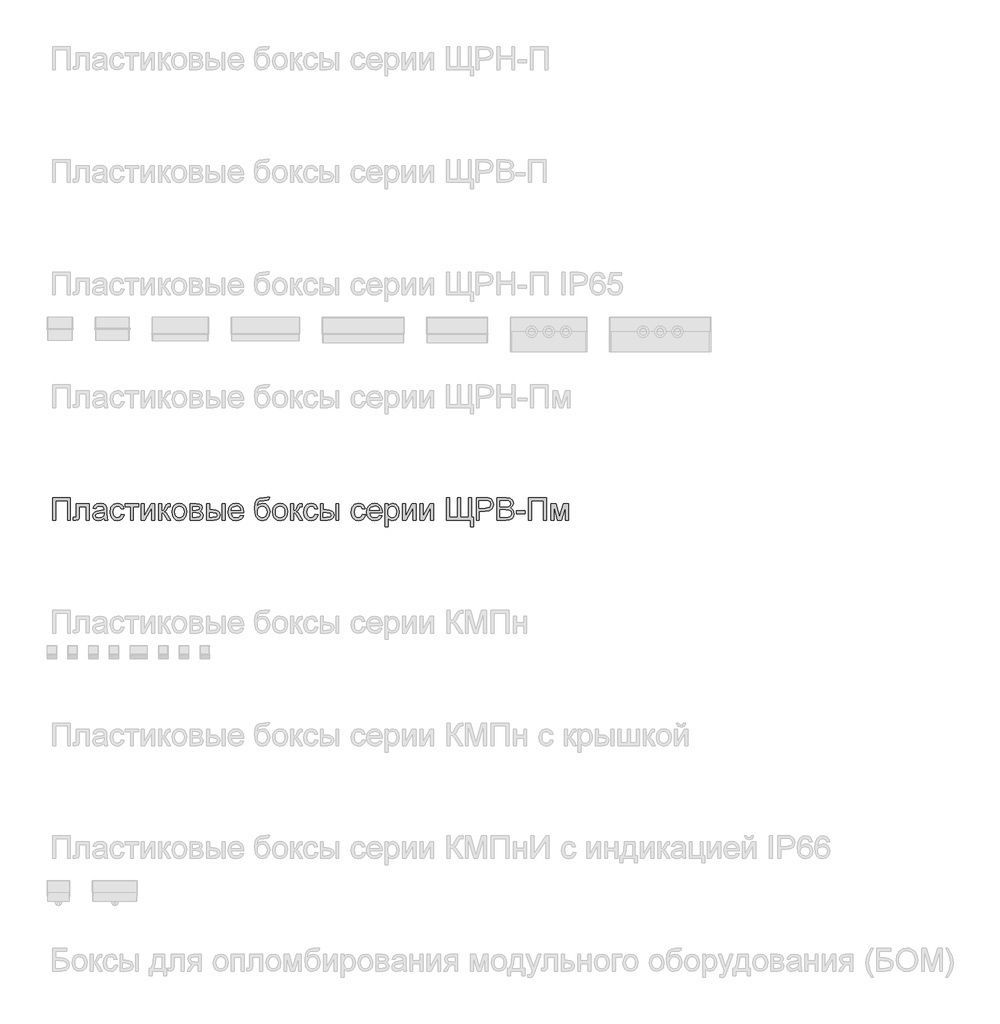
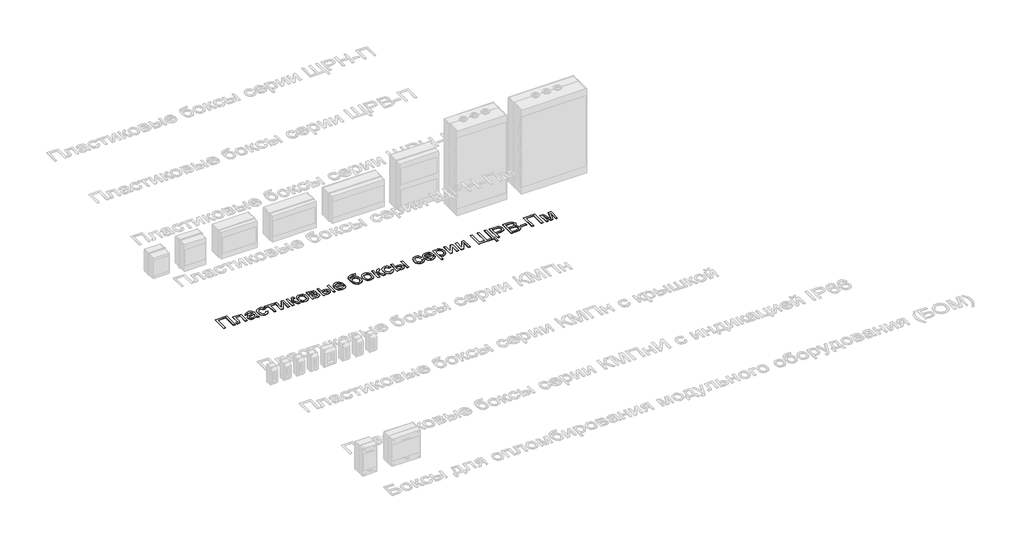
# One storey, part 22 of 25: 1 proxy.
"""IFC4 building model written with IfcOpenShell, lengths in millimetres."""

from ifc_helpers import new_model, si_unit, frame, origin, place, context, project, spatial, polyline, outline, extrude, element, save

model = new_model("IFC4")

# Units and contexts
model_context = context("Model", 3, world=origin())
ifc_project = project(units=[si_unit("LENGTHUNIT", "METRE", prefix="MILLI")], contexts=[model_context])

# Site, building, storey
site = spatial("IfcSite", under=ifc_project)
building = spatial("IfcBuilding", under=site)
storey = spatial("IfcBuildingStorey", under=building, Name="Этаж 01", Elevation=0.0)

# Proxy
placement = place(None, origin())
element("IfcBuildingElementProxy", 1, Name="Надпись на модели 1", ObjectType="Надпись на модели 1", at=placement, inside=storey, context=model_context, shape_type="SweptSolid", body=[
    extrude(outline(polyline([(-19038.1210387, 16636.6915941), (-18959.6395464, 16636.6915941), (-18959.6395464, 16536.235284), (-18972.1965852, 16536.235284), (-18972.1965852, 16624.1345554), (-19025.564, 16624.1345554), (-19025.564, 16536.235284), (-19038.1210387, 16536.235284), (-19038.1210387, 16636.6915941)])), frame((0.0, 0.0, 40.0), z_axis=(0.0, 0.0, 1.0), x_axis=(1.0, 0.0, 0.0)), (0.0, 0.0, 1.0), 2.0),
    extrude(outline(polyline([(-18932.955839, 16610.0078868), (-18876.4491646, 16610.0078868), (-18876.4491646, 16536.3088604), (-18889.0062033, 16536.3088604), (-18889.0062033, 16597.450848), (-18920.3988003, 16597.450848), (-18920.3988003, 16562.2568038), (-18921.2449289, 16546.0209451), (-18925.8925047, 16539.1660772), (-18936.8799137, 16536.235284), (-18947.0825077, 16536.8729461), (-18947.0825077, 16548.7923228), (-18941.4661759, 16548.7923228), (-18935.7885304, 16549.564875), (-18933.5199248, 16552.0174216), (-18932.955839, 16562.9680423), (-18932.955839, 16610.0078868)])), frame((0.0, 0.0, 40.0), z_axis=(0.0, 0.0, 1.0), x_axis=(1.0, 0.0, 0.0)), (0.0, 0.0, 1.0), 2.0),
    extrude(outline(polyline([(-18810.524711, 16545.6530631), (-18822.7016051, 16537.1427262), (-18836.1538234, 16534.6656541), (-18846.6476573, 16536.1555762), (-18854.3885076, 16540.6253425), (-18859.1617765, 16547.4127653), (-18860.7528661, 16555.8556571), (-18858.3493704, 16565.7884709), (-18852.0340628, 16572.998958), (-18843.2416831, 16577.1192364), (-18832.3769016, 16579.0076973), (-18810.5982874, 16583.3241794), (-18810.524711, 16586.1200825), (-18813.9828018, 16595.3907088), (-18827.8642158, 16599.0204778), (-18840.5684073, 16596.6047194), (-18846.6261975, 16588.0330689), (-18859.1832363, 16589.6026988), (-18853.7508455, 16601.8654319), (-18842.8124875, 16609.0513936), (-18826.245535, 16611.5775166), (-18811.0274831, 16609.3456992), (-18802.4313072, 16603.7416301), (-18798.5808089, 16595.2190306), (-18797.9676723, 16584.2316216), (-18797.9676723, 16568.6088996), (-18797.3300102, 16546.7934973), (-18794.8284126, 16536.235284), (-18807.3854514, 16536.235284), (-18810.524711, 16545.6530631)]), holes=[polyline([(-18810.524711, 16570.7671406), (-18830.7827462, 16566.9166424), (-18841.5862142, 16564.8810287), (-18846.4790447, 16561.5700907), (-18848.1958274, 16556.7385739), (-18844.4556937, 16549.9450197), (-18833.4805475, 16547.2226929), (-18820.776356, 16550.2270625), (-18812.5848502, 16557.4988633), (-18810.5982874, 16567.210948), (-18810.524711, 16570.7671406)])]), frame((0.0, 0.0, 40.0), z_axis=(0.0, 0.0, 1.0), x_axis=(1.0, 0.0, 0.0)), (0.0, 0.0, 1.0), 2.0),
    extrude(outline(polyline([(-18733.6128486, 16562.9189914), (-18721.0558098, 16561.3493615), (-18724.5568201, 16550.1810773), (-18731.1357765, 16541.7412512), (-18740.1734108, 16536.4345534), (-18751.0504552, 16534.6656541), (-18764.4076373, 16537.1335292), (-18774.8524202, 16544.5371544), (-18781.5938578, 16556.5515672), (-18783.8410037, 16572.8518052), (-18780.0027682, 16593.7107144), (-18768.3041207, 16607.1138817), (-18751.2221334, 16611.5775166), (-18740.6118035, 16610.044675), (-18732.1290579, 16605.44615), (-18726.0436765, 16598.0271964), (-18722.6254397, 16588.0330689), (-18735.1824784, 16586.4634391), (-18741.0072767, 16595.8689554), (-18751.1240316, 16599.0204778), (-18759.2388952, 16597.4692421), (-18765.6798958, 16592.8155349), (-18769.8829476, 16584.8079701), (-18771.2839649, 16573.1951618), (-18769.9136045, 16561.4260036), (-18765.8025232, 16553.3908477), (-18759.4780185, 16548.7647316), (-18751.4673881, 16547.2226929), (-18739.6338506, 16551.0731911), (-18733.6128486, 16562.9189914)])), frame((0.0, 0.0, 40.0), z_axis=(0.0, 0.0, 1.0), x_axis=(1.0, 0.0, 0.0)), (0.0, 0.0, 1.0), 2.0),
    extrude(outline(polyline([(-18716.3469203, 16610.0078868), (-18656.7009861, 16610.0078868), (-18656.7009861, 16597.450848), (-18680.2454338, 16597.450848), (-18680.2454338, 16536.235284), (-18692.8024726, 16536.235284), (-18692.8024726, 16597.450848), (-18716.3469203, 16597.450848), (-18716.3469203, 16610.0078868)])), frame((0.0, 0.0, 40.0), z_axis=(0.0, 0.0, 1.0), x_axis=(1.0, 0.0, 0.0)), (0.0, 0.0, 1.0), 2.0),
    extrude(outline(polyline([(-18645.7135772, 16610.0078868), (-18633.1565384, 16610.0078868), (-18633.1565384, 16553.746467), (-18602.3035018, 16610.0078868), (-18586.0676431, 16610.0078868), (-18586.0676431, 16536.235284), (-18598.6246818, 16536.235284), (-18598.6246818, 16592.1533473), (-18629.2815148, 16536.235284), (-18645.7135772, 16536.235284), (-18645.7135772, 16610.0078868)])), frame((0.0, 0.0, 40.0), z_axis=(0.0, 0.0, 1.0), x_axis=(1.0, 0.0, 0.0)), (0.0, 0.0, 1.0), 2.0),
    extrude(outline(polyline([(-18567.2320849, 16610.0078868), (-18554.6750461, 16610.0078868), (-18554.6750461, 16578.6152898), (-18546.2628112, 16580.8716327), (-18539.3711551, 16594.0172827), (-18533.6444587, 16605.3603109), (-18528.5922127, 16609.0513936), (-18519.4074255, 16610.0078868), (-18517.0039298, 16610.0078868), (-18517.0039298, 16597.3772716), (-18520.3884442, 16597.450848), (-18526.5198108, 16596.1264728), (-18530.8362928, 16587.8613906), (-18535.9008016, 16578.9218582), (-18543.0009242, 16574.5440624), (-18535.0791985, 16569.6573633), (-18527.3046257, 16559.3627988), (-18513.8646701, 16536.235284), (-18528.1384915, 16536.235284), (-18541.308667, 16558.8722894), (-18547.9305429, 16568.449484), (-18554.6750461, 16570.7671406), (-18554.6750461, 16536.235284), (-18567.2320849, 16536.235284), (-18567.2320849, 16610.0078868)])), frame((0.0, 0.0, 40.0), z_axis=(0.0, 0.0, 1.0), x_axis=(1.0, 0.0, 0.0)), (0.0, 0.0, 1.0), 2.0),
    extrude(outline(polyline([(-18509.1557806, 16573.1215854), (-18506.4395852, 16590.9086798), (-18498.290999, 16603.4105363), (-18488.2232951, 16609.5357715), (-18476.1690284, 16611.5775166), (-18462.9773932, 16609.0912475), (-18452.4406397, 16601.63244), (-18445.5336552, 16589.7897054), (-18443.2313271, 16574.151655), (-18447.3025545, 16551.8089551), (-18459.1606175, 16539.1660772), (-18476.1690284, 16534.6656541), (-18489.5200791, 16537.1427262), (-18500.0445698, 16544.5739426), (-18506.8779779, 16556.6649975), (-18509.1557806, 16573.1215854)]), holes=[polyline([(-18496.5987418, 16573.1461108), (-18495.1456079, 16561.7816229), (-18490.7862063, 16553.6851533), (-18484.2256441, 16548.838308), (-18476.1690284, 16547.2226929), (-18468.1492009, 16548.8475051), (-18461.6009014, 16553.7219415), (-18457.2414997, 16561.92571), (-18455.7883658, 16573.5385183), (-18457.2506968, 16584.5719125), (-18461.6376896, 16592.5580175), (-18468.1951861, 16597.4048627), (-18476.1690284, 16599.0204778), (-18484.2256441, 16597.4109941), (-18490.7862063, 16592.5825429), (-18495.1456079, 16584.5044674), (-18496.5987418, 16573.1461108)])]), frame((0.0, 0.0, 40.0), z_axis=(0.0, 0.0, 1.0), x_axis=(1.0, 0.0, 0.0)), (0.0, 0.0, 1.0), 2.0),
    extrude(outline(polyline([(-18429.1046584, 16610.0078868), (-18401.4399324, 16610.0078868), (-18386.2709315, 16608.3278923), (-18377.7360692, 16602.1720003), (-18374.1676138, 16591.4421087), (-18376.3258549, 16582.7233055), (-18382.8251035, 16576.5060997), (-18374.388343, 16569.7002828), (-18371.0283541, 16557.8667453), (-18373.1559383, 16548.2956821), (-18378.2143158, 16541.5573102), (-18386.2218805, 16537.5657905), (-18397.1970267, 16536.235284), (-18429.1046584, 16536.235284), (-18429.1046584, 16610.0078868)]), holes=[polyline([(-18416.5476197, 16548.7923228), (-18401.1456268, 16548.7923228), (-18387.4849421, 16551.0609284), (-18383.5853929, 16558.8968149), (-18385.7313712, 16564.9423424), (-18391.3231775, 16568.4617468), (-18402.3719001, 16569.1975108), (-18416.5476197, 16569.1975108), (-18416.5476197, 16548.7923228)]), polyline([(-18416.5476197, 16581.7545495), (-18404.1377337, 16581.7545495), (-18393.8983515, 16582.3922117), (-18388.9196818, 16584.9428602), (-18386.7246526, 16589.5536478), (-18390.5751508, 16595.7095399), (-18403.7453262, 16597.450848), (-18416.5476197, 16597.450848), (-18416.5476197, 16581.7545495)])]), frame((0.0, 0.0, 40.0), z_axis=(0.0, 0.0, 1.0), x_axis=(1.0, 0.0, 0.0)), (0.0, 0.0, 1.0), 2.0),
    extrude(outline(polyline([(-18286.2683425, 16610.0078868), (-18273.7113037, 16610.0078868), (-18273.7113037, 16536.235284), (-18286.2683425, 16536.235284), (-18286.2683425, 16610.0078868)])), frame((0.0, 0.0, 40.0), z_axis=(0.0, 0.0, 1.0), x_axis=(1.0, 0.0, 0.0)), (0.0, 0.0, 1.0), 2.0),
    extrude(outline(polyline([(-18355.3320557, 16610.0078868), (-18342.7750169, 16610.0078868), (-18342.7750169, 16583.3241794), (-18327.2503967, 16583.3241794), (-18313.8319009, 16581.7514838), (-18303.88989, 16577.0333973), (-18297.7370637, 16569.5500643), (-18295.6861215, 16559.6816298), (-18297.4059699, 16550.6961121), (-18302.5655148, 16543.1146773), (-18311.5019816, 16537.9551323), (-18324.5525954, 16536.235284), (-18355.3320557, 16536.235284), (-18355.3320557, 16610.0078868)]), holes=[polyline([(-18342.7750169, 16548.7923228), (-18329.8746216, 16548.7923228), (-18313.22183, 16551.4288104), (-18308.2431603, 16559.6571044), (-18311.934243, 16567.3826263), (-18328.2314154, 16570.7671406), (-18342.7750169, 16570.7671406), (-18342.7750169, 16548.7923228)])]), frame((0.0, 0.0, 40.0), z_axis=(0.0, 0.0, 1.0), x_axis=(1.0, 0.0, 0.0)), (0.0, 0.0, 1.0), 2.0),
    extrude(outline(polyline([(-18203.2251134, 16558.2101018), (-18190.9133293, 16556.640472), (-18195.349373, 16547.3637143), (-18202.4280358, 16540.4291387), (-18211.9899019, 16536.1065253), (-18223.8755561, 16534.6656541), (-18238.60923, 16537.1519233), (-18249.9461268, 16544.6107308), (-18257.175008, 16556.5576985), (-18259.5846351, 16572.5084487), (-18257.1504825, 16588.9956935), (-18249.8480249, 16601.3258717), (-18238.6644123, 16609.0146054), (-18224.5867946, 16611.5775166), (-18210.9475696, 16609.0207367), (-18200.0490655, 16601.3503971), (-18192.9029578, 16589.0447444), (-18190.5209218, 16572.5820251), (-18190.5944982, 16569.1975108), (-18247.0275963, 16569.1975108), (-18244.8540268, 16559.7981258), (-18239.8048465, 16552.8880756), (-18232.5177173, 16548.6390386), (-18223.6303014, 16547.2226929), (-18211.3185173, 16549.8469178), (-18203.2251134, 16558.2101018)]), holes=[polyline([(-18247.0275963, 16581.7545495), (-18203.0779606, 16581.7545495), (-18208.1056812, 16593.1343659), (-18215.4265329, 16597.5489499), (-18224.6358455, 16599.0204778), (-18240.0991521, 16594.323851), (-18244.9643914, 16588.8332123), (-18247.0275963, 16581.7545495)])]), frame((0.0, 0.0, 40.0), z_axis=(0.0, 0.0, 1.0), x_axis=(1.0, 0.0, 0.0)), (0.0, 0.0, 1.0), 2.0),
    extrude(outline(polyline([(-18086.925352, 16638.261224), (-18075.9379431, 16638.261224), (-18079.1753046, 16628.4633002), (-18085.5764513, 16624.9193703), (-18100.9539187, 16624.1345554), (-18121.6656751, 16621.2405503), (-18129.6119262, 16611.9699241), (-18132.2974647, 16595.5623871), (-18121.4204204, 16607.5798656), (-18107.4041164, 16611.5775166), (-18094.3381742, 16609.0360652), (-18083.7370414, 16601.4117108), (-18076.7104953, 16589.4524803), (-18074.3683132, 16573.9064003), (-18079.0158891, 16552.2994644), (-18090.0400862, 16539.2641791), (-18107.4041164, 16534.6656541), (-18118.7379475, 16536.1463792), (-18127.2329559, 16540.5885543), (-18138.0854748, 16555.7452925), (-18141.8623966, 16587.9104416), (-18139.4803607, 16612.0036466), (-18132.3342529, 16626.6974666), (-18120.2462637, 16634.1930623), (-18103.0385834, 16636.6915941), (-18089.0590676, 16636.973637), (-18086.925352, 16638.261224)]), holes=[polyline([(-18086.925352, 16574.2988078), (-18088.2865154, 16584.179505), (-18092.3700055, 16592.0920336), (-18098.9305678, 16597.2883668), (-18107.7229475, 16599.0204778), (-18116.8893405, 16597.1902649), (-18123.689026, 16591.6996261), (-18127.9012749, 16583.1494354), (-18129.3053578, 16572.1405667), (-18127.7541221, 16561.4689232), (-18123.1004149, 16553.6361024), (-18116.1719706, 16548.8260453), (-18107.7965239, 16547.2226929), (-18099.3781575, 16549.0774313), (-18092.7133621, 16554.6416465), (-18088.3723545, 16563.2654136), (-18086.925352, 16574.2988078)])]), frame((0.0, 0.0, 40.0), z_axis=(0.0, 0.0, 1.0), x_axis=(1.0, 0.0, 0.0)), (0.0, 0.0, 1.0), 2.0),
    extrude(outline(polyline([(-18061.8112745, 16573.1215854), (-18059.0950791, 16590.9086798), (-18050.9464929, 16603.4105363), (-18040.8787889, 16609.5357715), (-18028.8245222, 16611.5775166), (-18015.632887, 16609.0912475), (-18005.0961335, 16601.63244), (-17998.1891491, 16589.7897054), (-17995.8868209, 16574.151655), (-17999.9580483, 16551.8089551), (-18011.8161113, 16539.1660772), (-18028.8245222, 16534.6656541), (-18042.175573, 16537.1427262), (-18052.7000637, 16544.5739426), (-18059.5334718, 16556.6649975), (-18061.8112745, 16573.1215854)]), holes=[polyline([(-18049.2542357, 16573.1461108), (-18047.8011018, 16561.7816229), (-18043.4417002, 16553.6851533), (-18036.8811379, 16548.838308), (-18028.8245222, 16547.2226929), (-18020.8046947, 16548.8475051), (-18014.2563952, 16553.7219415), (-18009.8969936, 16561.92571), (-18008.4438597, 16573.5385183), (-18009.9061906, 16584.5719125), (-18014.2931834, 16592.5580175), (-18020.85068, 16597.4048627), (-18028.8245222, 16599.0204778), (-18036.8811379, 16597.4109941), (-18043.4417002, 16592.5825429), (-18047.8011018, 16584.5044674), (-18049.2542357, 16573.1461108)])]), frame((0.0, 0.0, 40.0), z_axis=(0.0, 0.0, 1.0), x_axis=(1.0, 0.0, 0.0)), (0.0, 0.0, 1.0), 2.0),
    extrude(outline(polyline([(-17981.7601523, 16610.0078868), (-17969.2031135, 16610.0078868), (-17969.2031135, 16578.6152898), (-17960.7908786, 16580.8716327), (-17953.8992225, 16594.0172827), (-17948.1725262, 16605.3603109), (-17943.1202801, 16609.0513936), (-17933.9354929, 16610.0078868), (-17931.5319972, 16610.0078868), (-17931.5319972, 16597.3772716), (-17934.9165116, 16597.450848), (-17941.0478782, 16596.1264728), (-17945.3643603, 16587.8613906), (-17950.4288691, 16578.9218582), (-17957.5289916, 16574.5440624), (-17949.6072659, 16569.6573633), (-17941.8326931, 16559.3627988), (-17928.3927375, 16536.235284), (-17942.666559, 16536.235284), (-17955.8367344, 16558.8722894), (-17962.4586103, 16568.449484), (-17969.2031135, 16570.7671406), (-17969.2031135, 16536.235284), (-17981.7601523, 16536.235284), (-17981.7601523, 16610.0078868)])), frame((0.0, 0.0, 40.0), z_axis=(0.0, 0.0, 1.0), x_axis=(1.0, 0.0, 0.0)), (0.0, 0.0, 1.0), 2.0),
    extrude(outline(polyline([(-17873.4556929, 16562.9189914), (-17860.8986542, 16561.3493615), (-17864.3996645, 16550.1810773), (-17870.9786208, 16541.7412512), (-17880.0162552, 16536.4345534), (-17890.8932995, 16534.6656541), (-17904.2504816, 16537.1335292), (-17914.6952646, 16544.5371544), (-17921.4367022, 16556.5515672), (-17923.683848, 16572.8518052), (-17919.8456125, 16593.7107144), (-17908.1469651, 16607.1138817), (-17891.0649778, 16611.5775166), (-17880.4546479, 16610.044675), (-17871.9719022, 16605.44615), (-17865.8865209, 16598.0271964), (-17862.468284, 16588.0330689), (-17875.0253228, 16586.4634391), (-17880.850121, 16595.8689554), (-17890.9668759, 16599.0204778), (-17899.0817396, 16597.4692421), (-17905.5227402, 16592.8155349), (-17909.725792, 16584.8079701), (-17911.1268092, 16573.1951618), (-17909.7564488, 16561.4260036), (-17905.6453675, 16553.3908477), (-17899.3208629, 16548.7647316), (-17891.3102324, 16547.2226929), (-17879.4766949, 16551.0731911), (-17873.4556929, 16562.9189914)])), frame((0.0, 0.0, 40.0), z_axis=(0.0, 0.0, 1.0), x_axis=(1.0, 0.0, 0.0)), (0.0, 0.0, 1.0), 2.0),
    extrude(outline(polyline([(-17780.847532, 16610.0078868), (-17768.2904932, 16610.0078868), (-17768.2904932, 16536.235284), (-17780.847532, 16536.235284), (-17780.847532, 16610.0078868)])), frame((0.0, 0.0, 40.0), z_axis=(0.0, 0.0, 1.0), x_axis=(1.0, 0.0, 0.0)), (0.0, 0.0, 1.0), 2.0),
    extrude(outline(polyline([(-17849.9112452, 16610.0078868), (-17837.3542065, 16610.0078868), (-17837.3542065, 16583.3241794), (-17821.8295863, 16583.3241794), (-17808.4110905, 16581.7514838), (-17798.4690796, 16577.0333973), (-17792.3162532, 16569.5500643), (-17790.2653111, 16559.6816298), (-17791.9851594, 16550.6961121), (-17797.1447044, 16543.1146773), (-17806.0811712, 16537.9551323), (-17819.131785, 16536.235284), (-17849.9112452, 16536.235284), (-17849.9112452, 16610.0078868)]), holes=[polyline([(-17837.3542065, 16548.7923228), (-17824.4538112, 16548.7923228), (-17807.8010195, 16551.4288104), (-17802.8223499, 16559.6571044), (-17806.5134325, 16567.3826263), (-17822.8106049, 16570.7671406), (-17837.3542065, 16570.7671406), (-17837.3542065, 16548.7923228)])]), frame((0.0, 0.0, 40.0), z_axis=(0.0, 0.0, 1.0), x_axis=(1.0, 0.0, 0.0)), (0.0, 0.0, 1.0), 2.0),
    extrude(outline(polyline([(-17663.1252936, 16562.9189914), (-17650.5682548, 16561.3493615), (-17654.0692651, 16550.1810773), (-17660.6482215, 16541.7412512), (-17669.6858558, 16536.4345534), (-17680.5629001, 16534.6656541), (-17693.9200822, 16537.1335292), (-17704.3648652, 16544.5371544), (-17711.1063028, 16556.5515672), (-17713.3534486, 16572.8518052), (-17709.5152131, 16593.7107144), (-17697.8165657, 16607.1138817), (-17680.7345784, 16611.5775166), (-17670.1242485, 16610.044675), (-17661.6415028, 16605.44615), (-17655.5561215, 16598.0271964), (-17652.1378846, 16588.0330689), (-17664.6949234, 16586.4634391), (-17670.5197217, 16595.8689554), (-17680.6364765, 16599.0204778), (-17688.7513402, 16597.4692421), (-17695.1923408, 16592.8155349), (-17699.3953926, 16584.8079701), (-17700.7964099, 16573.1951618), (-17699.4260494, 16561.4260036), (-17695.3149681, 16553.3908477), (-17688.9904635, 16548.7647316), (-17680.9798331, 16547.2226929), (-17669.1462955, 16551.0731911), (-17663.1252936, 16562.9189914)])), frame((0.0, 0.0, 40.0), z_axis=(0.0, 0.0, 1.0), x_axis=(1.0, 0.0, 0.0)), (0.0, 0.0, 1.0), 2.0),
    extrude(outline(polyline([(-17587.9302137, 16558.2101018), (-17575.6184296, 16556.640472), (-17580.0544734, 16547.3637143), (-17587.1331361, 16540.4291387), (-17596.6950023, 16536.1065253), (-17608.5806564, 16534.6656541), (-17623.3143303, 16537.1519233), (-17634.6512271, 16544.6107308), (-17641.8801083, 16556.5576985), (-17644.2897354, 16572.5084487), (-17641.8555829, 16588.9956935), (-17634.5531253, 16601.3258717), (-17623.3695126, 16609.0146054), (-17609.2918949, 16611.5775166), (-17595.65267, 16609.0207367), (-17584.7541658, 16601.3503971), (-17577.6080581, 16589.0447444), (-17575.2260222, 16572.5820251), (-17575.2995986, 16569.1975108), (-17631.7326966, 16569.1975108), (-17629.5591272, 16559.7981258), (-17624.5099468, 16552.8880756), (-17617.2228176, 16548.6390386), (-17608.3354017, 16547.2226929), (-17596.0236176, 16549.8469178), (-17587.9302137, 16558.2101018)]), holes=[polyline([(-17631.7326966, 16581.7545495), (-17587.7830609, 16581.7545495), (-17592.8107815, 16593.1343659), (-17600.1316332, 16597.5489499), (-17609.3409459, 16599.0204778), (-17624.8042524, 16594.323851), (-17629.6694918, 16588.8332123), (-17631.7326966, 16581.7545495)])]), frame((0.0, 0.0, 40.0), z_axis=(0.0, 0.0, 1.0), x_axis=(1.0, 0.0, 0.0)), (0.0, 0.0, 1.0), 2.0),
    extrude(outline(polyline([(-17562.6689834, 16507.9819468), (-17562.6689834, 16610.0078868), (-17550.1119446, 16610.0078868), (-17550.1119446, 16597.6961027), (-17541.4299296, 16608.1071631), (-17529.7067566, 16611.5775166), (-17513.789729, 16606.7214743), (-17503.3909312, 16593.036264), (-17499.8837896, 16573.6856711), (-17503.8446524, 16553.3417968), (-17515.3470961, 16539.4849083), (-17531.2273356, 16534.6656541), (-17542.1534308, 16537.890753), (-17550.1119446, 16546.0454705), (-17550.1119446, 16507.9819468), (-17562.6689834, 16507.9819468)]), holes=[polyline([(-17550.1119446, 16572.5329742), (-17548.7538469, 16561.2757851), (-17544.6795538, 16553.4031104), (-17538.6677489, 16548.7677973), (-17531.4971157, 16547.2226929), (-17524.2099865, 16548.8229796), (-17518.0448974, 16553.6238396), (-17513.8418456, 16561.7846886), (-17512.4408283, 16573.4649419), (-17513.8081231, 16584.6608173), (-17517.9100073, 16592.6438566), (-17523.9126152, 16597.4263225), (-17530.9820809, 16599.0204778), (-17538.0791377, 16597.325155), (-17544.3116718, 16592.2391864), (-17548.6618764, 16583.9219876), (-17550.1119446, 16572.5329742)])]), frame((0.0, 0.0, 40.0), z_axis=(0.0, 0.0, 1.0), x_axis=(1.0, 0.0, 0.0)), (0.0, 0.0, 1.0), 2.0),
    extrude(outline(polyline([(-17485.7571209, 16610.0078868), (-17473.2000822, 16610.0078868), (-17473.2000822, 16553.746467), (-17442.3470455, 16610.0078868), (-17426.1111868, 16610.0078868), (-17426.1111868, 16536.235284), (-17438.6682256, 16536.235284), (-17438.6682256, 16592.1533473), (-17469.3250585, 16536.235284), (-17485.7571209, 16536.235284), (-17485.7571209, 16610.0078868)])), frame((0.0, 0.0, 40.0), z_axis=(0.0, 0.0, 1.0), x_axis=(1.0, 0.0, 0.0)), (0.0, 0.0, 1.0), 2.0),
    extrude(outline(polyline([(-17407.2756286, 16610.0078868), (-17394.7185899, 16610.0078868), (-17394.7185899, 16553.746467), (-17363.8655532, 16610.0078868), (-17347.6296945, 16610.0078868), (-17347.6296945, 16536.235284), (-17360.1867333, 16536.235284), (-17360.1867333, 16592.1533473), (-17390.8435662, 16536.235284), (-17407.2756286, 16536.235284), (-17407.2756286, 16610.0078868)])), frame((0.0, 0.0, 40.0), z_axis=(0.0, 0.0, 1.0), x_axis=(1.0, 0.0, 0.0)), (0.0, 0.0, 1.0), 2.0),
    extrude(outline(polyline([(-17289.5533902, 16636.6915941), (-17276.9963514, 16636.6915941), (-17276.9963514, 16548.7923228), (-17240.894865, 16548.7923228), (-17240.894865, 16636.6915941), (-17228.3378262, 16636.6915941), (-17228.3378262, 16548.7923228), (-17192.2363397, 16548.7923228), (-17192.2363397, 16636.6915941), (-17179.679301, 16636.6915941), (-17179.679301, 16548.7923228), (-17170.2615219, 16548.7923228), (-17170.2615219, 16507.9819468), (-17182.8185607, 16507.9819468), (-17182.8185607, 16536.235284), (-17289.5533902, 16536.235284), (-17289.5533902, 16636.6915941)])), frame((0.0, 0.0, 40.0), z_axis=(0.0, 0.0, 1.0), x_axis=(1.0, 0.0, 0.0)), (0.0, 0.0, 1.0), 2.0),
    extrude(outline(polyline([(-17157.7044831, 16536.235284), (-17157.7044831, 16636.6915941), (-17120.4748252, 16636.6915941), (-17105.4652398, 16635.735101), (-17093.2638203, 16631.0384742), (-17085.3543574, 16621.3263895), (-17082.3622505, 16607.6289165), (-17084.3825358, 16595.7892476), (-17090.4433917, 16585.9238788), (-17101.7772228, 16579.2652147), (-17119.6164339, 16577.04566), (-17145.1474443, 16577.04566), (-17145.1474443, 16536.235284), (-17157.7044831, 16536.235284)]), holes=[polyline([(-17145.1474443, 16589.6026988), (-17118.8806699, 16589.6026988), (-17100.3884683, 16594.2134864), (-17096.286584, 16599.7623732), (-17094.9192893, 16607.1874581), (-17098.1443881, 16617.5862559), (-17106.6179367, 16623.2761641), (-17119.1749755, 16624.1345554), (-17145.1474443, 16624.1345554), (-17145.1474443, 16589.6026988)])]), frame((0.0, 0.0, 40.0), z_axis=(0.0, 0.0, 1.0), x_axis=(1.0, 0.0, 0.0)), (0.0, 0.0, 1.0), 2.0),
    extrude(outline(polyline([(-17065.0963222, 16536.235284), (-17065.0963222, 16636.6915941), (-17026.7630183, 16636.6915941), (-17007.9887738, 16633.7362754), (-16996.903263, 16624.6495902), (-16992.8933493, 16611.7982458), (-16996.2656009, 16600.0628102), (-17006.4559322, 16591.1723286), (-16994.0828344, 16581.8036005), (-16989.7540896, 16566.1808784), (-16992.7094083, 16552.6796092), (-17000.03026, 16543.0656264), (-17010.9563552, 16537.9643294), (-17027.0573239, 16536.235284), (-17065.0963222, 16536.235284)]), holes=[polyline([(-17052.5392834, 16595.8812181), (-17029.6079724, 16595.8812181), (-17016.2170678, 16596.9603387), (-17008.1604521, 16601.6079145), (-17005.450388, 16609.7871576), (-17007.9765111, 16617.9786633), (-17015.2115236, 16622.8224429), (-17031.3492805, 16624.1345554), (-17052.5392834, 16624.1345554), (-17052.5392834, 16595.8812181)]), polyline([(-17052.5392834, 16548.7923228), (-17026.7875438, 16548.7923228), (-17017.4678666, 16549.2828321), (-17009.5829291, 16552.0174216), (-17004.3590048, 16557.5969652), (-17002.3111284, 16566.0582511), (-17004.7146241, 16575.8193867), (-17012.5014596, 16581.6441849), (-17028.0138171, 16583.3241794), (-17052.5392834, 16583.3241794), (-17052.5392834, 16548.7923228)])]), frame((0.0, 0.0, 40.0), z_axis=(0.0, 0.0, 1.0), x_axis=(1.0, 0.0, 0.0)), (0.0, 0.0, 1.0), 2.0),
    extrude(outline(polyline([(-16980.3363105, 16566.0582511), (-16980.3363105, 16578.6152898), (-16941.0955644, 16578.6152898), (-16941.0955644, 16566.0582511), (-16980.3363105, 16566.0582511)])), frame((0.0, 0.0, 40.0), z_axis=(0.0, 0.0, 1.0), x_axis=(1.0, 0.0, 0.0)), (0.0, 0.0, 1.0), 2.0),
    extrude(outline(polyline([(-16925.3992659, 16636.6915941), (-16846.9177736, 16636.6915941), (-16846.9177736, 16536.235284), (-16859.4748124, 16536.235284), (-16859.4748124, 16624.1345554), (-16912.8422271, 16624.1345554), (-16912.8422271, 16536.235284), (-16925.3992659, 16536.235284), (-16925.3992659, 16636.6915941)])), frame((0.0, 0.0, 40.0), z_axis=(0.0, 0.0, 1.0), x_axis=(1.0, 0.0, 0.0)), (0.0, 0.0, 1.0), 2.0),
    extrude(outline(polyline([(-16826.5125856, 16610.0078868), (-16804.9056497, 16610.0078868), (-16788.2528581, 16550.9505638), (-16770.3002167, 16610.0078868), (-16749.6007231, 16610.0078868), (-16749.6007231, 16536.235284), (-16762.1577619, 16536.235284), (-16762.1577619, 16595.6359635), (-16780.2085051, 16536.235284), (-16796.6896185, 16536.235284), (-16813.9555468, 16598.4809176), (-16813.9555468, 16536.235284), (-16826.5125856, 16536.235284), (-16826.5125856, 16610.0078868)])), frame((0.0, 0.0, 40.0), z_axis=(0.0, 0.0, 1.0), x_axis=(1.0, 0.0, 0.0)), (0.0, 0.0, 1.0), 2.0),
])

save(model, "model.ifc")
